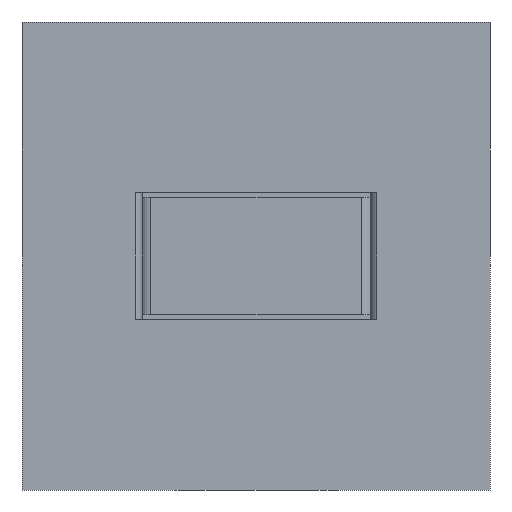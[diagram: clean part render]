
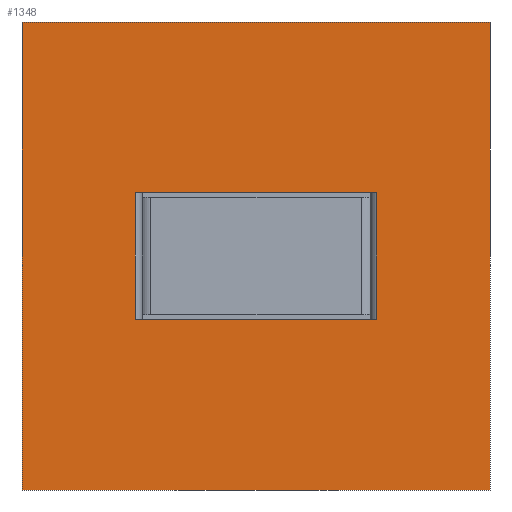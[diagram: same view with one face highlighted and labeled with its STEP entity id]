
A CAD part, front view. The second image highlights one B-rep face of the part: STEP entity #1348.
In plain terms, the highlighted planar face has unit normal (0, -1, 0).
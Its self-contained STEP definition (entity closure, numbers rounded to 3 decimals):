
#13 = VECTOR ( 'NONE', #1006, 1000. ) ;
#18 = EDGE_CURVE ( 'NONE', #801, #671, #1236, .T. ) ;
#21 = DIRECTION ( 'NONE',  ( 1., 0., 0. ) ) ;
#56 = EDGE_CURVE ( 'NONE', #1788, #65, #1198, .T. ) ;
#65 = VERTEX_POINT ( 'NONE', #1349 ) ;
#201 = ORIENTED_EDGE ( 'NONE', *, *, #1247, .F. ) ;
#206 = DIRECTION ( 'NONE',  ( 0., 0., -1. ) ) ;
#224 = AXIS2_PLACEMENT_3D ( 'NONE', #1716, #670, #1720 ) ;
#290 = ORIENTED_EDGE ( 'NONE', *, *, #56, .F. ) ;
#301 = CARTESIAN_POINT ( 'NONE',  ( 5.15, -10., -2.7 ) ) ;
#346 = CARTESIAN_POINT ( 'NONE',  ( 10., -10., 10. ) ) ;
#389 = DIRECTION ( 'NONE',  ( 0., 0., 1. ) ) ;
#399 = VECTOR ( 'NONE', #659, 1000. ) ;
#407 = VECTOR ( 'NONE', #206, 1000. ) ;
#456 = VERTEX_POINT ( 'NONE', #301 ) ;
#509 = VERTEX_POINT ( 'NONE', #905 ) ;
#510 = DIRECTION ( 'NONE',  ( 1., 0., 0. ) ) ;
#517 = CARTESIAN_POINT ( 'NONE',  ( -5.15, -10., -2.7 ) ) ;
#540 = ORIENTED_EDGE ( 'NONE', *, *, #1805, .T. ) ;
#564 = CARTESIAN_POINT ( 'NONE',  ( 5.15, -10., 2.7 ) ) ;
#580 = CARTESIAN_POINT ( 'NONE',  ( -10., -10., -10. ) ) ;
#659 = DIRECTION ( 'NONE',  ( 0., 0., -1. ) ) ;
#670 = DIRECTION ( 'NONE',  ( 0., 1., 0. ) ) ;
#671 = VERTEX_POINT ( 'NONE', #1398 ) ;
#688 = CARTESIAN_POINT ( 'NONE',  ( 5.15, -10., 2.7 ) ) ;
#709 = FACE_BOUND ( 'NONE', #1125, .T. ) ;
#740 = VECTOR ( 'NONE', #389, 1000. ) ;
#791 = VECTOR ( 'NONE', #1938, 1000. ) ;
#794 = LINE ( 'NONE', #346, #399 ) ;
#798 = LINE ( 'NONE', #1269, #407 ) ;
#801 = VERTEX_POINT ( 'NONE', #517 ) ;
#827 = CARTESIAN_POINT ( 'NONE',  ( 5.15, -10., -2.7 ) ) ;
#833 = ORIENTED_EDGE ( 'NONE', *, *, #1457, .F. ) ;
#846 = VECTOR ( 'NONE', #510, 1000. ) ;
#905 = CARTESIAN_POINT ( 'NONE',  ( -10., -10., -10. ) ) ;
#934 = CARTESIAN_POINT ( 'NONE',  ( 5.15, -10., -2.7 ) ) ;
#1006 = DIRECTION ( 'NONE',  ( 0., 0., 1. ) ) ;
#1034 = ORIENTED_EDGE ( 'NONE', *, *, #1632, .T. ) ;
#1037 = EDGE_LOOP ( 'NONE', ( #1034, #1495, #290, #1534 ) ) ;
#1087 = FACE_OUTER_BOUND ( 'NONE', #1037, .T. ) ;
#1125 = EDGE_LOOP ( 'NONE', ( #833, #201, #1290, #540 ) ) ;
#1156 = DIRECTION ( 'NONE',  ( 1., 0., 0. ) ) ;
#1180 = VECTOR ( 'NONE', #1156, 1000. ) ;
#1198 = LINE ( 'NONE', #1791, #791 ) ;
#1225 = LINE ( 'NONE', #564, #1180 ) ;
#1236 = LINE ( 'NONE', #1786, #13 ) ;
#1240 = LINE ( 'NONE', #934, #1599 ) ;
#1247 = EDGE_CURVE ( 'NONE', #801, #456, #1240, .T. ) ;
#1259 = PLANE ( 'NONE',  #224 ) ;
#1260 = EDGE_CURVE ( 'NONE', #65, #1684, #794, .T. ) ;
#1269 = CARTESIAN_POINT ( 'NONE',  ( -10., -10., 10. ) ) ;
#1290 = ORIENTED_EDGE ( 'NONE', *, *, #18, .T. ) ;
#1348 = ADVANCED_FACE ( 'NONE', ( #709, #1087 ), #1259, .F. ) ;
#1349 = CARTESIAN_POINT ( 'NONE',  ( 10., -10., 10. ) ) ;
#1398 = CARTESIAN_POINT ( 'NONE',  ( -5.15, -10., 2.7 ) ) ;
#1442 = VERTEX_POINT ( 'NONE', #688 ) ;
#1457 = EDGE_CURVE ( 'NONE', #456, #1442, #1934, .T. ) ;
#1495 = ORIENTED_EDGE ( 'NONE', *, *, #1260, .F. ) ;
#1534 = ORIENTED_EDGE ( 'NONE', *, *, #1666, .T. ) ;
#1599 = VECTOR ( 'NONE', #21, 1000. ) ;
#1632 = EDGE_CURVE ( 'NONE', #509, #1684, #1661, .T. ) ;
#1661 = LINE ( 'NONE', #580, #846 ) ;
#1666 = EDGE_CURVE ( 'NONE', #1788, #509, #798, .T. ) ;
#1684 = VERTEX_POINT ( 'NONE', #1870 ) ;
#1716 = CARTESIAN_POINT ( 'NONE',  ( -10., -10., 10. ) ) ;
#1720 = DIRECTION ( 'NONE',  ( 0., 0., 1. ) ) ;
#1786 = CARTESIAN_POINT ( 'NONE',  ( -5.15, -10., -2.7 ) ) ;
#1788 = VERTEX_POINT ( 'NONE', #1896 ) ;
#1791 = CARTESIAN_POINT ( 'NONE',  ( -10., -10., 10. ) ) ;
#1805 = EDGE_CURVE ( 'NONE', #671, #1442, #1225, .T. ) ;
#1870 = CARTESIAN_POINT ( 'NONE',  ( 10., -10., -10. ) ) ;
#1896 = CARTESIAN_POINT ( 'NONE',  ( -10., -10., 10. ) ) ;
#1934 = LINE ( 'NONE', #827, #740 ) ;
#1938 = DIRECTION ( 'NONE',  ( 1., 0., 0. ) ) ;
